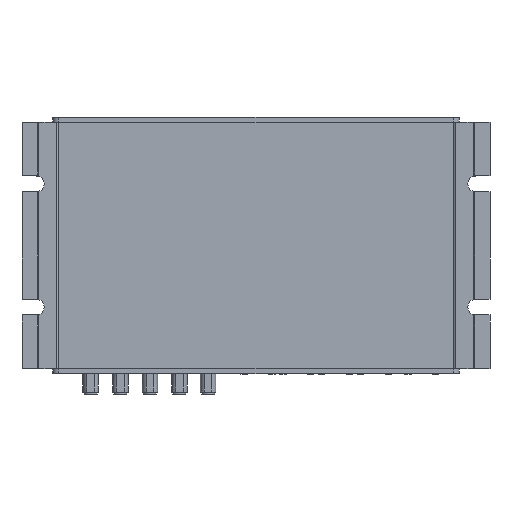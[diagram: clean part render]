
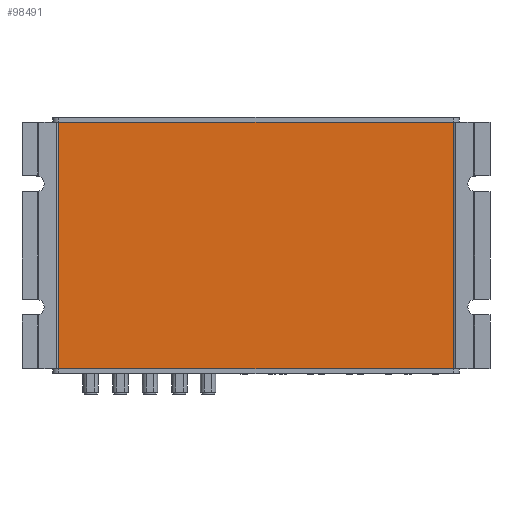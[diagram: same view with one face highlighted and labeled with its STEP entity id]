
A CAD part, front view. The second image highlights one B-rep face of the part: STEP entity #98491.
In plain terms, the highlighted planar face has unit normal (0, -1, 0).
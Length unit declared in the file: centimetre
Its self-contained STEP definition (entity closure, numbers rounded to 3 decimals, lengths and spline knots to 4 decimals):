
#10346=VERTEX_POINT('',#137142);
#10347=VERTEX_POINT('',#137144);
#10348=VERTEX_POINT('',#137148);
#10349=VERTEX_POINT('',#137150);
#19785=VECTOR('',#112188,1.);
#19786=VECTOR('',#112192,1.);
#19787=VECTOR('',#112193,1.);
#19788=VECTOR('',#112194,1.);
#31789=LINE('',#137143,#19785);
#31790=LINE('',#137147,#19786);
#31791=LINE('',#137149,#19787);
#31792=LINE('',#137151,#19788);
#43884=EDGE_CURVE('',#10347,#10346,#31789,.T.);
#43886=EDGE_CURVE('',#10346,#10348,#31790,.T.);
#43887=EDGE_CURVE('',#10349,#10348,#31791,.T.);
#43888=EDGE_CURVE('',#10347,#10349,#31792,.T.);
#58481=ORIENTED_EDGE('',*,*,#43886,.T.);
#58482=ORIENTED_EDGE('',*,*,#43887,.F.);
#58483=ORIENTED_EDGE('',*,*,#43888,.F.);
#58484=ORIENTED_EDGE('',*,*,#43884,.T.);
#87175=EDGE_LOOP('',(#58481,#58482,#58483,#58484));
#92833=FACE_BOUND('',#87175,.T.);
#98491=ADVANCED_FACE('',(#92833),#167292,.T.);
#103606=AXIS2_PLACEMENT_3D('',#137146,#112191,$);
#112188=DIRECTION('',(0.,0.,1.));
#112191=DIRECTION('',(0.,-1.,0.));
#112192=DIRECTION('',(-1.,0.,0.));
#112193=DIRECTION('',(0.,0.,1.));
#112194=DIRECTION('',(-1.,0.,0.));
#137142=CARTESIAN_POINT('',(17.5,0.1,10.));
#137143=CARTESIAN_POINT('',(17.5,0.1,0.));
#137144=CARTESIAN_POINT('',(17.5,0.1,0.));
#137146=CARTESIAN_POINT('',(9.5,0.1,0.));
#137147=CARTESIAN_POINT('',(17.5,0.1,10.));
#137148=CARTESIAN_POINT('',(1.5,0.1,10.));
#137149=CARTESIAN_POINT('',(1.5,0.1,0.));
#137150=CARTESIAN_POINT('',(1.5,0.1,0.));
#137151=CARTESIAN_POINT('',(17.5,0.1,0.));
#167292=PLANE('',#103606);
